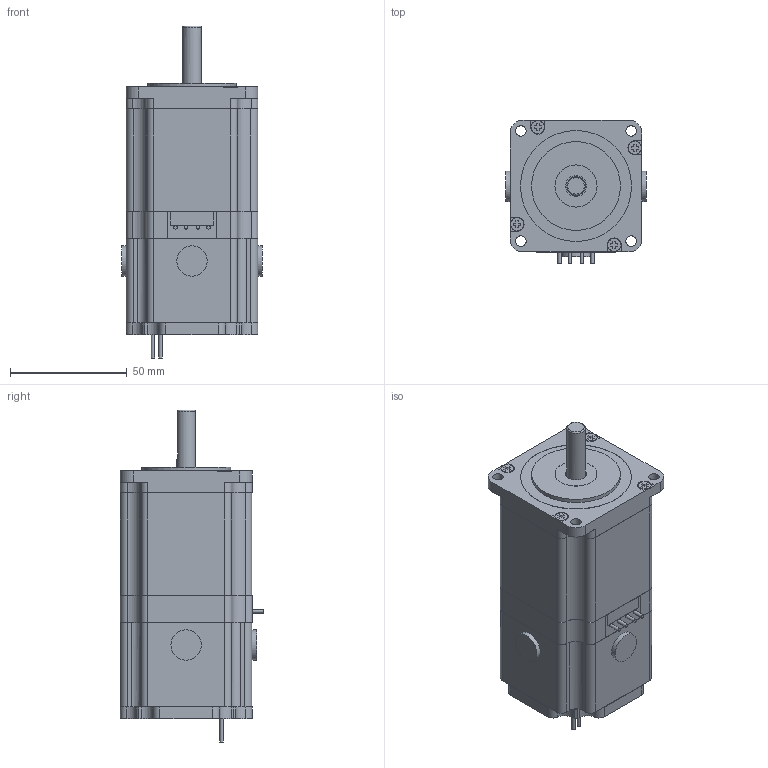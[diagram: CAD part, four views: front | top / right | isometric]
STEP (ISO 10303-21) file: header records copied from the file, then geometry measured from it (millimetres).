
FILE_DESCRIPTION(/* description */ (''),/* implementation_level */ '2;1');
FILE_NAME(/* name */ 'UB57D24-D44-865.stp',/* time_stamp */ '2018-08-20T11:15:37+08:00',/* author */ (''),/* organization */ (''),/* preprocessor_version */ 'ST-DEVELOPER v11',/* originating_system */ 'SIEMENS UGS NX 6.0',/* authorisation */ '');
FILE_SCHEMA (('CONFIG_CONTROL_DESIGN'));
Length unit declared in the file: millimetre
Products named in the file (1): UB57D24-D44-865
Bounding box: 60.2 x 61.4 x 142 mm (x, y, z)
Volume: 307372.9 mm3; surface area: 30379 mm2
Topology: 2 solids, 3 shells, 263 faces, 686 edges, 455 vertices
Faces by surface type: plane 166, cylinder 96, torus 1
Full cylindrical faces by diameter (mm): 1.5 x6, 4.5 x4, 5.5 x4, 6 x1, 8 x1, 9 x2, 13 x3, 18 x1, 38 x1, 47.5 x1
Entity records: 8008 total; most frequent: CARTESIAN_POINT 1398, DIRECTION 1387, ORIENTED_EDGE 1302, EDGE_CURVE 651, AXIS2_PLACEMENT_3D 474, VERTEX_POINT 444, LINE 439, VECTOR 439
